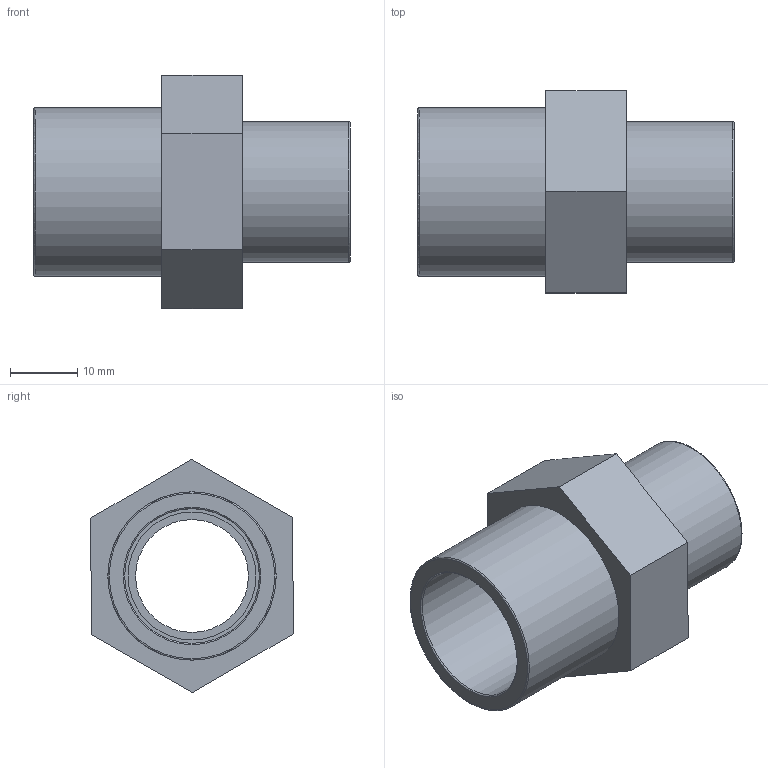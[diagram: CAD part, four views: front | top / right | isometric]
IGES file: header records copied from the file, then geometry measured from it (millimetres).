
Global section: file name: 052102020005.ipt; native system: Autodesk Inventor 2015; preprocessor: unknown; author: KIM; date: 20171207.165353; units: millimetre
Bounding box: 47 x 30.06 x 34.64 mm (x, y, z)
Volume: 11585.4 mm3; surface area: 7608.6 mm2
Topology: 1 solids, 1 shells, 21 faces, 55 edges, 40 vertices
Faces by surface type: plane 12, revolution 7, cylinder 2
Full cylindrical faces by diameter (mm): 20.955 x1, 25 x1
